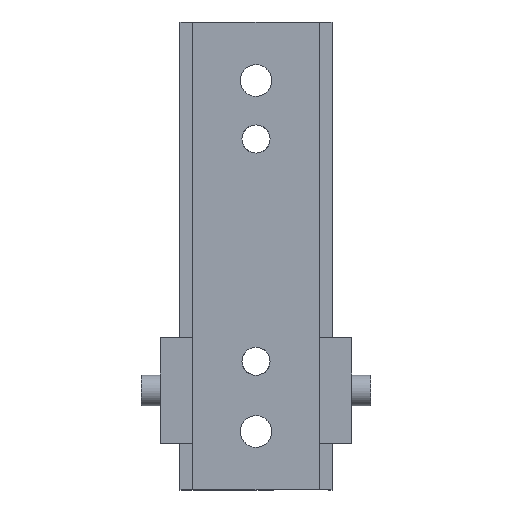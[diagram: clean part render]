
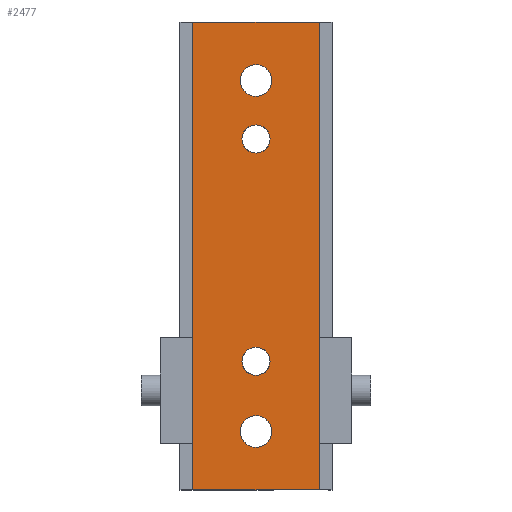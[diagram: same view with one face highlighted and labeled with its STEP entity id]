
A CAD part, front view. The second image highlights one B-rep face of the part: STEP entity #2477.
In plain terms, the highlighted planar face has unit normal (0, -1, 0).
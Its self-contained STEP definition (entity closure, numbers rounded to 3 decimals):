
#710=CARTESIAN_POINT('Vertex',(-4973.207,-575.36,200.)) ;
#713=CARTESIAN_POINT('Line Origine',(-4973.207,-575.36,100.)) ;
#717=CARTESIAN_POINT('Vertex',(-4973.207,-575.36,0.)) ;
#1912=CARTESIAN_POINT('Vertex',(-5000.207,-575.36,31.75)) ;
#1915=CARTESIAN_POINT('Axis2P3D Location',(-5000.207,-575.36,25.)) ;
#1919=CARTESIAN_POINT('Vertex',(-5006.957,-575.36,25.)) ;
#1922=CARTESIAN_POINT('Axis2P3D Location',(-5000.207,-575.36,25.)) ;
#1926=CARTESIAN_POINT('Vertex',(-5000.207,-575.36,18.25)) ;
#1960=CARTESIAN_POINT('Axis2P3D Location',(-5000.207,-575.36,25.)) ;
#1964=CARTESIAN_POINT('Vertex',(-4993.457,-575.36,25.)) ;
#1967=CARTESIAN_POINT('Axis2P3D Location',(-5000.207,-575.36,25.)) ;
#2006=CARTESIAN_POINT('Vertex',(-5000.207,-575.36,181.75)) ;
#2009=CARTESIAN_POINT('Axis2P3D Location',(-5000.207,-575.36,175.)) ;
#2013=CARTESIAN_POINT('Vertex',(-5006.957,-575.36,175.)) ;
#2016=CARTESIAN_POINT('Axis2P3D Location',(-5000.207,-575.36,175.)) ;
#2020=CARTESIAN_POINT('Vertex',(-5000.207,-575.36,168.25)) ;
#2054=CARTESIAN_POINT('Axis2P3D Location',(-5000.207,-575.36,175.)) ;
#2058=CARTESIAN_POINT('Vertex',(-4993.457,-575.36,175.)) ;
#2061=CARTESIAN_POINT('Axis2P3D Location',(-5000.207,-575.36,175.)) ;
#2100=CARTESIAN_POINT('Vertex',(-5000.207,-575.36,61.)) ;
#2103=CARTESIAN_POINT('Axis2P3D Location',(-5000.207,-575.36,55.)) ;
#2107=CARTESIAN_POINT('Vertex',(-5006.207,-575.36,55.)) ;
#2110=CARTESIAN_POINT('Axis2P3D Location',(-5000.207,-575.36,55.)) ;
#2114=CARTESIAN_POINT('Vertex',(-5000.207,-575.36,49.)) ;
#2148=CARTESIAN_POINT('Axis2P3D Location',(-5000.207,-575.36,55.)) ;
#2152=CARTESIAN_POINT('Vertex',(-4994.207,-575.36,55.)) ;
#2155=CARTESIAN_POINT('Axis2P3D Location',(-5000.207,-575.36,55.)) ;
#2194=CARTESIAN_POINT('Vertex',(-5000.207,-575.36,156.)) ;
#2197=CARTESIAN_POINT('Axis2P3D Location',(-5000.207,-575.36,150.)) ;
#2201=CARTESIAN_POINT('Vertex',(-5006.207,-575.36,150.)) ;
#2204=CARTESIAN_POINT('Axis2P3D Location',(-5000.207,-575.36,150.)) ;
#2208=CARTESIAN_POINT('Vertex',(-5000.207,-575.36,144.)) ;
#2242=CARTESIAN_POINT('Axis2P3D Location',(-5000.207,-575.36,150.)) ;
#2246=CARTESIAN_POINT('Vertex',(-4994.207,-575.36,150.)) ;
#2249=CARTESIAN_POINT('Axis2P3D Location',(-5000.207,-575.36,150.)) ;
#2423=CARTESIAN_POINT('Axis2P3D Location',(-5027.207,-575.36,200.)) ;
#2428=CARTESIAN_POINT('Line Origine',(-5000.207,-575.36,0.)) ;
#2432=CARTESIAN_POINT('Vertex',(-5027.207,-575.36,0.)) ;
#2435=CARTESIAN_POINT('Line Origine',(-5000.207,-575.36,200.)) ;
#2439=CARTESIAN_POINT('Vertex',(-5027.207,-575.36,200.)) ;
#2442=CARTESIAN_POINT('Line Origine',(-5027.207,-575.36,100.)) ;
#714=DIRECTION('Vector Direction',(0.,0.,-1.)) ;
#1916=DIRECTION('Axis2P3D Direction',(0.,-1.,0.)) ;
#1923=DIRECTION('Axis2P3D Direction',(0.,-1.,0.)) ;
#1961=DIRECTION('Axis2P3D Direction',(0.,-1.,-0.)) ;
#1968=DIRECTION('Axis2P3D Direction',(0.,-1.,-0.)) ;
#2010=DIRECTION('Axis2P3D Direction',(0.,-1.,0.)) ;
#2017=DIRECTION('Axis2P3D Direction',(0.,-1.,0.)) ;
#2055=DIRECTION('Axis2P3D Direction',(0.,-1.,-0.)) ;
#2062=DIRECTION('Axis2P3D Direction',(0.,-1.,-0.)) ;
#2104=DIRECTION('Axis2P3D Direction',(0.,-1.,0.)) ;
#2111=DIRECTION('Axis2P3D Direction',(0.,-1.,0.)) ;
#2149=DIRECTION('Axis2P3D Direction',(0.,-1.,-0.)) ;
#2156=DIRECTION('Axis2P3D Direction',(0.,-1.,-0.)) ;
#2198=DIRECTION('Axis2P3D Direction',(0.,-1.,0.)) ;
#2205=DIRECTION('Axis2P3D Direction',(0.,-1.,0.)) ;
#2243=DIRECTION('Axis2P3D Direction',(0.,-1.,-0.)) ;
#2250=DIRECTION('Axis2P3D Direction',(0.,-1.,-0.)) ;
#2424=DIRECTION('Axis2P3D Direction',(0.,1.,0.)) ;
#2425=DIRECTION('Axis2P3D XDirection',(0.,-0.,1.)) ;
#2429=DIRECTION('Vector Direction',(1.,0.,0.)) ;
#2436=DIRECTION('Vector Direction',(1.,0.,0.)) ;
#2443=DIRECTION('Vector Direction',(0.,0.,-1.)) ;
#1917=AXIS2_PLACEMENT_3D('Circle Axis2P3D',#1915,#1916,$) ;
#1924=AXIS2_PLACEMENT_3D('Circle Axis2P3D',#1922,#1923,$) ;
#1962=AXIS2_PLACEMENT_3D('Circle Axis2P3D',#1960,#1961,$) ;
#1969=AXIS2_PLACEMENT_3D('Circle Axis2P3D',#1967,#1968,$) ;
#2011=AXIS2_PLACEMENT_3D('Circle Axis2P3D',#2009,#2010,$) ;
#2018=AXIS2_PLACEMENT_3D('Circle Axis2P3D',#2016,#2017,$) ;
#2056=AXIS2_PLACEMENT_3D('Circle Axis2P3D',#2054,#2055,$) ;
#2063=AXIS2_PLACEMENT_3D('Circle Axis2P3D',#2061,#2062,$) ;
#2105=AXIS2_PLACEMENT_3D('Circle Axis2P3D',#2103,#2104,$) ;
#2112=AXIS2_PLACEMENT_3D('Circle Axis2P3D',#2110,#2111,$) ;
#2150=AXIS2_PLACEMENT_3D('Circle Axis2P3D',#2148,#2149,$) ;
#2157=AXIS2_PLACEMENT_3D('Circle Axis2P3D',#2155,#2156,$) ;
#2199=AXIS2_PLACEMENT_3D('Circle Axis2P3D',#2197,#2198,$) ;
#2206=AXIS2_PLACEMENT_3D('Circle Axis2P3D',#2204,#2205,$) ;
#2244=AXIS2_PLACEMENT_3D('Circle Axis2P3D',#2242,#2243,$) ;
#2251=AXIS2_PLACEMENT_3D('Circle Axis2P3D',#2249,#2250,$) ;
#2426=AXIS2_PLACEMENT_3D('Plane Axis2P3D',#2423,#2424,#2425) ;
#2448=ORIENTED_EDGE('',*,*,#2434,.T.) ;
#2449=ORIENTED_EDGE('',*,*,#719,.F.) ;
#2450=ORIENTED_EDGE('',*,*,#2441,.F.) ;
#2451=ORIENTED_EDGE('',*,*,#2446,.T.) ;
#2454=ORIENTED_EDGE('',*,*,#2248,.T.) ;
#2455=ORIENTED_EDGE('',*,*,#2210,.T.) ;
#2456=ORIENTED_EDGE('',*,*,#2203,.T.) ;
#2457=ORIENTED_EDGE('',*,*,#2253,.T.) ;
#2460=ORIENTED_EDGE('',*,*,#2154,.T.) ;
#2461=ORIENTED_EDGE('',*,*,#2116,.T.) ;
#2462=ORIENTED_EDGE('',*,*,#2109,.T.) ;
#2463=ORIENTED_EDGE('',*,*,#2159,.T.) ;
#2466=ORIENTED_EDGE('',*,*,#2060,.T.) ;
#2467=ORIENTED_EDGE('',*,*,#2022,.T.) ;
#2468=ORIENTED_EDGE('',*,*,#2015,.T.) ;
#2469=ORIENTED_EDGE('',*,*,#2065,.T.) ;
#2472=ORIENTED_EDGE('',*,*,#1966,.T.) ;
#2473=ORIENTED_EDGE('',*,*,#1928,.T.) ;
#2474=ORIENTED_EDGE('',*,*,#1921,.T.) ;
#2475=ORIENTED_EDGE('',*,*,#1971,.T.) ;
#2458=FACE_BOUND('',#2453,.T.) ;
#2464=FACE_BOUND('',#2459,.T.) ;
#2470=FACE_BOUND('',#2465,.T.) ;
#2476=FACE_BOUND('',#2471,.T.) ;
#715=VECTOR('Line Direction',#714,1.) ;
#2430=VECTOR('Line Direction',#2429,1.) ;
#2437=VECTOR('Line Direction',#2436,1.) ;
#2444=VECTOR('Line Direction',#2443,1.) ;
#2477=ADVANCED_FACE('A945-03-0620-01-S-BC',(#2452,#2458,#2464,#2470,#2476),#2427,.F.) ;
#1918=CIRCLE('generated circle',#1917,6.75) ;
#1925=CIRCLE('generated circle',#1924,6.75) ;
#1963=CIRCLE('generated circle',#1962,6.75) ;
#1970=CIRCLE('generated circle',#1969,6.75) ;
#2012=CIRCLE('generated circle',#2011,6.75) ;
#2019=CIRCLE('generated circle',#2018,6.75) ;
#2057=CIRCLE('generated circle',#2056,6.75) ;
#2064=CIRCLE('generated circle',#2063,6.75) ;
#2106=CIRCLE('generated circle',#2105,6.) ;
#2113=CIRCLE('generated circle',#2112,6.) ;
#2151=CIRCLE('generated circle',#2150,6.) ;
#2158=CIRCLE('generated circle',#2157,6.) ;
#2200=CIRCLE('generated circle',#2199,6.) ;
#2207=CIRCLE('generated circle',#2206,6.) ;
#2245=CIRCLE('generated circle',#2244,6.) ;
#2252=CIRCLE('generated circle',#2251,6.) ;
#719=EDGE_CURVE('',#711,#718,#716,.T.) ;
#1921=EDGE_CURVE('',#1920,#1913,#1918,.F.) ;
#1928=EDGE_CURVE('',#1927,#1920,#1925,.F.) ;
#1966=EDGE_CURVE('',#1965,#1927,#1963,.F.) ;
#1971=EDGE_CURVE('',#1913,#1965,#1970,.F.) ;
#2015=EDGE_CURVE('',#2014,#2007,#2012,.F.) ;
#2022=EDGE_CURVE('',#2021,#2014,#2019,.F.) ;
#2060=EDGE_CURVE('',#2059,#2021,#2057,.F.) ;
#2065=EDGE_CURVE('',#2007,#2059,#2064,.F.) ;
#2109=EDGE_CURVE('',#2108,#2101,#2106,.F.) ;
#2116=EDGE_CURVE('',#2115,#2108,#2113,.F.) ;
#2154=EDGE_CURVE('',#2153,#2115,#2151,.F.) ;
#2159=EDGE_CURVE('',#2101,#2153,#2158,.F.) ;
#2203=EDGE_CURVE('',#2202,#2195,#2200,.F.) ;
#2210=EDGE_CURVE('',#2209,#2202,#2207,.F.) ;
#2248=EDGE_CURVE('',#2247,#2209,#2245,.F.) ;
#2253=EDGE_CURVE('',#2195,#2247,#2252,.F.) ;
#2434=EDGE_CURVE('',#2433,#718,#2431,.T.) ;
#2441=EDGE_CURVE('',#2440,#711,#2438,.T.) ;
#2446=EDGE_CURVE('',#2440,#2433,#2445,.T.) ;
#2447=EDGE_LOOP('',(#2448,#2449,#2450,#2451)) ;
#2453=EDGE_LOOP('',(#2454,#2455,#2456,#2457)) ;
#2459=EDGE_LOOP('',(#2460,#2461,#2462,#2463)) ;
#2465=EDGE_LOOP('',(#2466,#2467,#2468,#2469)) ;
#2471=EDGE_LOOP('',(#2472,#2473,#2474,#2475)) ;
#2452=FACE_OUTER_BOUND('',#2447,.T.) ;
#716=LINE('Line',#713,#715) ;
#2431=LINE('Line',#2428,#2430) ;
#2438=LINE('Line',#2435,#2437) ;
#2445=LINE('Line',#2442,#2444) ;
#2427=PLANE('Plane',#2426) ;
#711=VERTEX_POINT('',#710) ;
#718=VERTEX_POINT('',#717) ;
#1913=VERTEX_POINT('',#1912) ;
#1920=VERTEX_POINT('',#1919) ;
#1927=VERTEX_POINT('',#1926) ;
#1965=VERTEX_POINT('',#1964) ;
#2007=VERTEX_POINT('',#2006) ;
#2014=VERTEX_POINT('',#2013) ;
#2021=VERTEX_POINT('',#2020) ;
#2059=VERTEX_POINT('',#2058) ;
#2101=VERTEX_POINT('',#2100) ;
#2108=VERTEX_POINT('',#2107) ;
#2115=VERTEX_POINT('',#2114) ;
#2153=VERTEX_POINT('',#2152) ;
#2195=VERTEX_POINT('',#2194) ;
#2202=VERTEX_POINT('',#2201) ;
#2209=VERTEX_POINT('',#2208) ;
#2247=VERTEX_POINT('',#2246) ;
#2433=VERTEX_POINT('',#2432) ;
#2440=VERTEX_POINT('',#2439) ;
